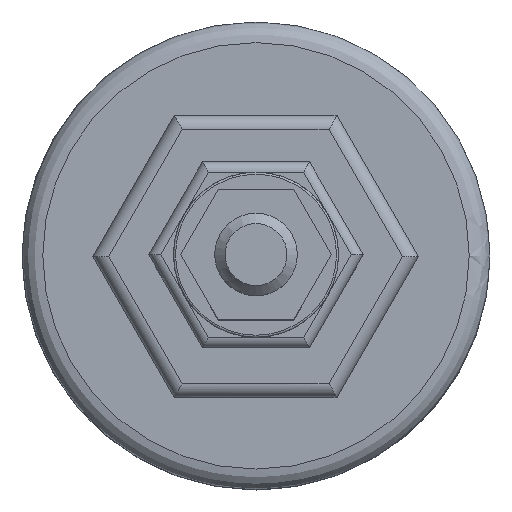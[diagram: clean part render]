
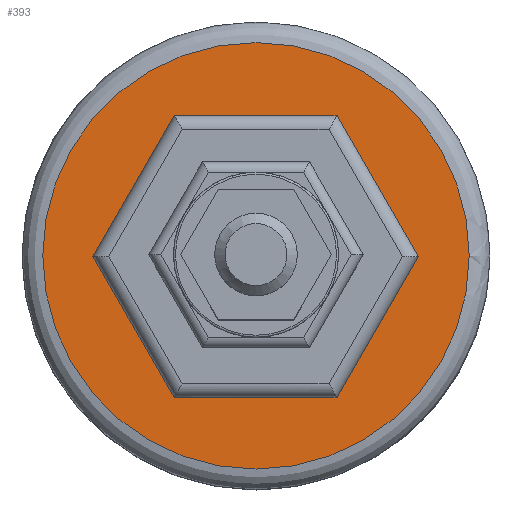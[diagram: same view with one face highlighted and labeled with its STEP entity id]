
A CAD part, top view. The second image highlights one B-rep face of the part: STEP entity #393.
In plain terms, the highlighted planar face has unit normal (0, 0, 1).
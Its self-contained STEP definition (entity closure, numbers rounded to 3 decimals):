
#368=CARTESIAN_POINT('',(1256.897,938.008,25.0));
#369=DIRECTION('',(0.0,0.0,1.0));
#370=DIRECTION('',(1.0,0.0,0.0));
#371=AXIS2_PLACEMENT_3D('',#368,#369,#370);
#372=PLANE('',#371);
#373=CARTESIAN_POINT('',(1328.697,978.808,25.0));
#374=VERTEX_POINT('',#373);
#375=CARTESIAN_POINT('',(1266.697,978.808,25.0));
#376=VERTEX_POINT('',#375);
#377=CARTESIAN_POINT('',(1297.697,978.808,25.0));
#378=DIRECTION('',(0.0,0.0,1.0));
#379=DIRECTION('',(1.0,0.0,0.0));
#380=AXIS2_PLACEMENT_3D('',#377,#378,#379);
#381=CIRCLE('',#380,31.0);
#382=EDGE_CURVE('',#374,#376,#381,.T.);
#383=ORIENTED_EDGE('',*,*,#382,.T.);
#384=CARTESIAN_POINT('',(1297.697,978.808,25.0));
#385=DIRECTION('',(0.0,0.0,1.0));
#386=DIRECTION('',(1.0,0.0,0.0));
#387=AXIS2_PLACEMENT_3D('',#384,#385,#386);
#388=CIRCLE('',#387,31.0);
#389=EDGE_CURVE('',#376,#374,#388,.T.);
#390=ORIENTED_EDGE('',*,*,#389,.T.);
#391=EDGE_LOOP('',(#383,#390));
#392=FACE_OUTER_BOUND('',#391,.T.);
#393=ADVANCED_FACE('',(#392),#372,.T.);
